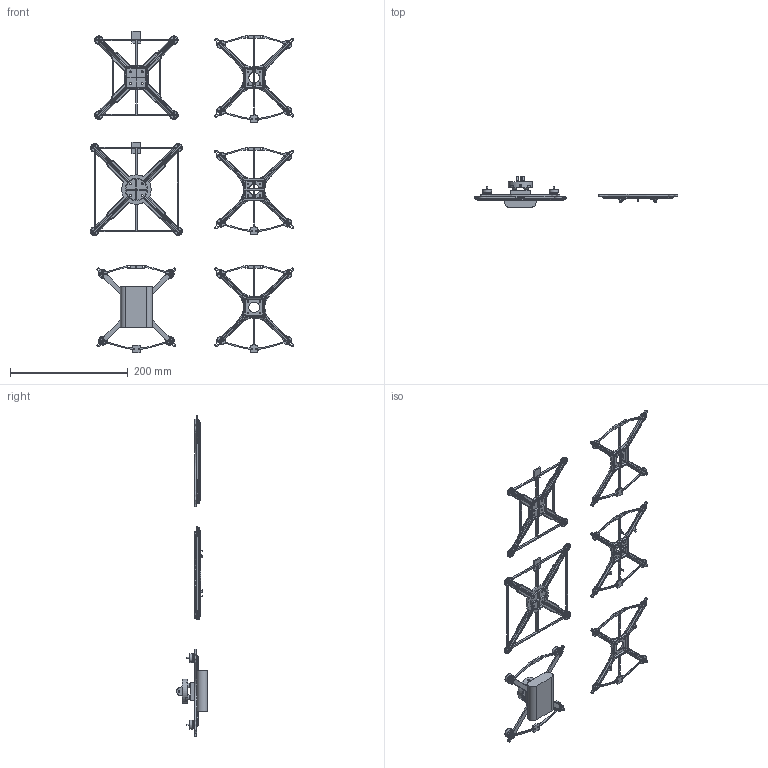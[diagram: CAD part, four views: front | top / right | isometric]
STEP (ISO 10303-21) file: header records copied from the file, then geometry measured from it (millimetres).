
FILE_DESCRIPTION(/* description */ (''),/* implementation_level */ '2;1');
FILE_NAME(/* name */ 'Sub250g Drone Frames.step',/* time_stamp */ '2024-07-15T11:07:18+02:00',/* author */ (''),/* organization */ (''),/* preprocessor_version */ 'ST-DEVELOPER v20',/* originating_system */ 'Autodesk Translation Framework v13.14.0.145',/* authorisation */ '');
FILE_SCHEMA (('AUTOMOTIVE_DESIGN { 1 0 10303 214 3 1 1 }'));
Products named in the file (1): Sub250g Drone Frames
Bounding box: 344.81 x 52.1 x 545.68 mm (x, y, z)
Volume: 195025.4 mm3; surface area: 126775.7 mm2
Topology: 13 solids, 13 shells, 2579 faces, 6997 edges, 4454 vertices
Faces by surface type: cylinder 1075, plane 807, cone 341, bspline 248, torus 80, sphere 28
Full cylindrical faces by diameter (mm): 2 x76, 2.2 x72, 2.3 x4, 2.5 x3, 3 x12, 3.5 x5, 4 x8, 4.25 x16, 5 x4, 5.5 x4, 6 x4, 10 x1, 15.26 x4, 18 x3, 39 x1, 41 x1
Entity records: 91836 total; most frequent: CARTESIAN_POINT 26206, ORIENTED_EDGE 13954, DIRECTION 13504, EDGE_CURVE 6977, AXIS2_PLACEMENT_3D 5103, VERTEX_POINT 4446, LINE 3298, VECTOR 3298
